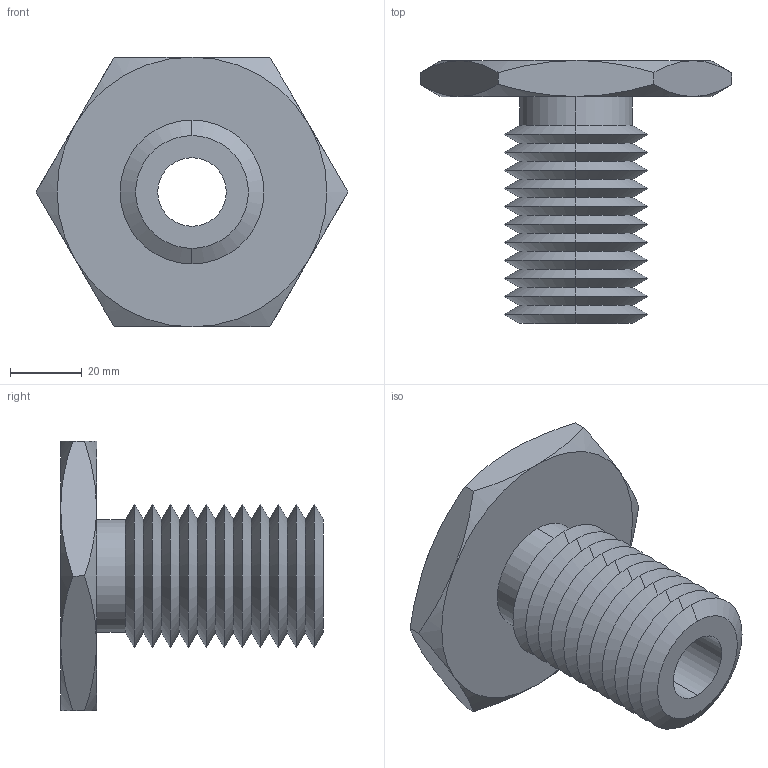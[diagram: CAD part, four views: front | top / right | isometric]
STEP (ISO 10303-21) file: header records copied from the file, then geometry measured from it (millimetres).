
FILE_DESCRIPTION (( 'STEP AP203' ), '1' );
FILE_NAME ('63302.W0042_0,75 UNC-10.step', '2013-12-08T11:15:18', ( 'User' ), ( '' ), 'SwSTEP 2.0', 'SolidWorks 2009', '' );
FILE_SCHEMA (( 'CONFIG_CONTROL_DESIGN' ));
Length unit declared in the file: millimetre
Products named in the file (1): 63302.W0042_0,75 UNC-10
Bounding box: 86.6 x 73 x 75 mm (x, y, z)
Volume: 88182.9 mm3; surface area: 28716.6 mm2
Topology: 1 solids, 1 shells, 71 faces, 146 edges, 78 vertices
Faces by surface type: cone 58, plane 9, cylinder 4
Entity records: 2039 total; most frequent: CARTESIAN_POINT 480, DIRECTION 332, ORIENTED_EDGE 292, EDGE_CURVE 146, AXIS2_PLACEMENT_3D 138, VERTEX_POINT 78, EDGE_LOOP 74, ADVANCED_FACE 71
